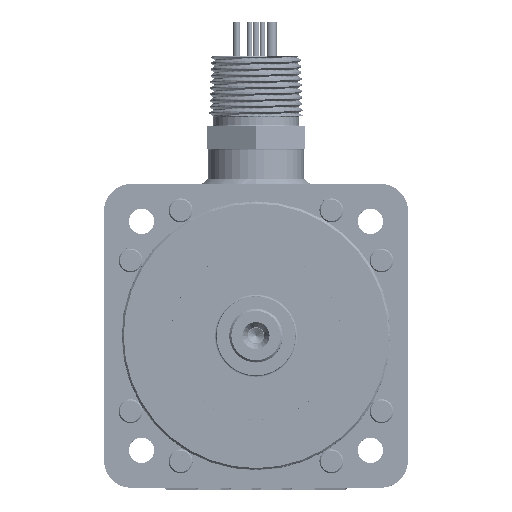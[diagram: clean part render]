
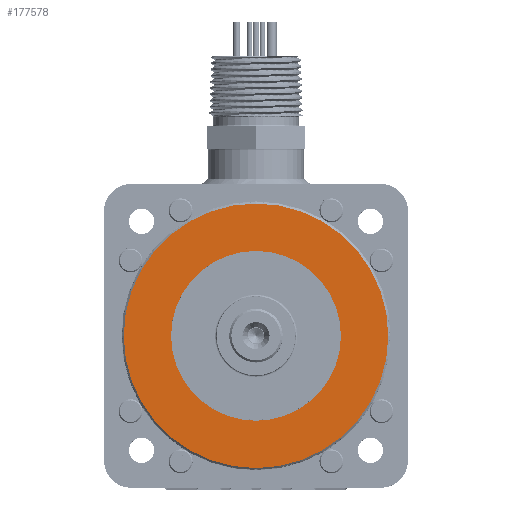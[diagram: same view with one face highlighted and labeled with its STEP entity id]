
A CAD part, top view. The second image highlights one B-rep face of the part: STEP entity #177578.
In plain terms, the highlighted planar face has unit normal (0, 0, 1).
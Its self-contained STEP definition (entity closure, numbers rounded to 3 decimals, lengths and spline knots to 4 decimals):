
#2310 = DIRECTION ( 'NONE',  ( 0., 0., -1. ) ) ;
#4312 = FACE_OUTER_BOUND ( 'NONE', #188834, .T. ) ;
#9981 = DIRECTION ( 'NONE',  ( 1., 0., 0. ) ) ;
#15186 = ORIENTED_EDGE ( 'NONE', *, *, #199467, .T. ) ;
#15539 = CARTESIAN_POINT ( 'NONE',  ( -1.188, 0., 0. ) ) ;
#16522 = CARTESIAN_POINT ( 'NONE',  ( 0., 0., 0. ) ) ;
#26216 = ORIENTED_EDGE ( 'NONE', *, *, #28608, .T. ) ;
#28608 = EDGE_CURVE ( 'NONE', #88030, #75237, #93808, .T. ) ;
#41776 = AXIS2_PLACEMENT_3D ( 'NONE', #146022, #129704, #115439 ) ;
#42106 = ORIENTED_EDGE ( 'NONE', *, *, #142929, .F. ) ;
#48091 = PLANE ( 'NONE',  #184031 ) ;
#49099 = CARTESIAN_POINT ( 'NONE',  ( 0., 1.188, 0. ) ) ;
#50192 = VERTEX_POINT ( 'NONE', #62799 ) ;
#50761 = CARTESIAN_POINT ( 'NONE',  ( 0., 0., 0. ) ) ;
#52098 = DIRECTION ( 'NONE',  ( -1., 0., 0. ) ) ;
#57696 = CARTESIAN_POINT ( 'NONE',  ( -1.8501, 0., 0. ) ) ;
#59746 = DIRECTION ( 'NONE',  ( 0., 0., 1. ) ) ;
#62799 = CARTESIAN_POINT ( 'NONE',  ( 1.188, 0., 0. ) ) ;
#64342 = DIRECTION ( 'NONE',  ( 1., 0., 0. ) ) ;
#74606 = CIRCLE ( 'NONE', #133041, 1.188 ) ;
#75237 = VERTEX_POINT ( 'NONE', #57696 ) ;
#79319 = DIRECTION ( 'NONE',  ( 1., 0., 0. ) ) ;
#79898 = ORIENTED_EDGE ( 'NONE', *, *, #182661, .F. ) ;
#88030 = VERTEX_POINT ( 'NONE', #162128 ) ;
#93808 = CIRCLE ( 'NONE', #41776, 1.8501 ) ;
#110188 = DIRECTION ( 'NONE',  ( 0., 0., 1. ) ) ;
#115439 = DIRECTION ( 'NONE',  ( 1., 0., 0. ) ) ;
#128152 = AXIS2_PLACEMENT_3D ( 'NONE', #136171, #59746, #9981 ) ;
#129489 = FACE_BOUND ( 'NONE', #166551, .T. ) ;
#129704 = DIRECTION ( 'NONE',  ( 0., 0., 1. ) ) ;
#129900 = AXIS2_PLACEMENT_3D ( 'NONE', #16522, #110188, #64342 ) ;
#133041 = AXIS2_PLACEMENT_3D ( 'NONE', #50761, #173953, #79319 ) ;
#136171 = CARTESIAN_POINT ( 'NONE',  ( 0., 0., 0. ) ) ;
#142929 = EDGE_CURVE ( 'NONE', #191861, #50192, #154167, .T. ) ;
#146022 = CARTESIAN_POINT ( 'NONE',  ( 0., 0., 0. ) ) ;
#154167 = CIRCLE ( 'NONE', #128152, 1.188 ) ;
#162128 = CARTESIAN_POINT ( 'NONE',  ( 1.8501, 0., 0. ) ) ;
#166551 = EDGE_LOOP ( 'NONE', ( #79898, #42106 ) ) ;
#173953 = DIRECTION ( 'NONE',  ( 0., 0., 1. ) ) ;
#177578 = ADVANCED_FACE ( 'NONE', ( #129489, #4312 ), #48091, .F. ) ;
#182661 = EDGE_CURVE ( 'NONE', #50192, #191861, #74606, .T. ) ;
#184031 = AXIS2_PLACEMENT_3D ( 'NONE', #49099, #2310, #52098 ) ;
#188834 = EDGE_LOOP ( 'NONE', ( #15186, #26216 ) ) ;
#191645 = CIRCLE ( 'NONE', #129900, 1.8501 ) ;
#191861 = VERTEX_POINT ( 'NONE', #15539 ) ;
#199467 = EDGE_CURVE ( 'NONE', #75237, #88030, #191645, .T. ) ;
